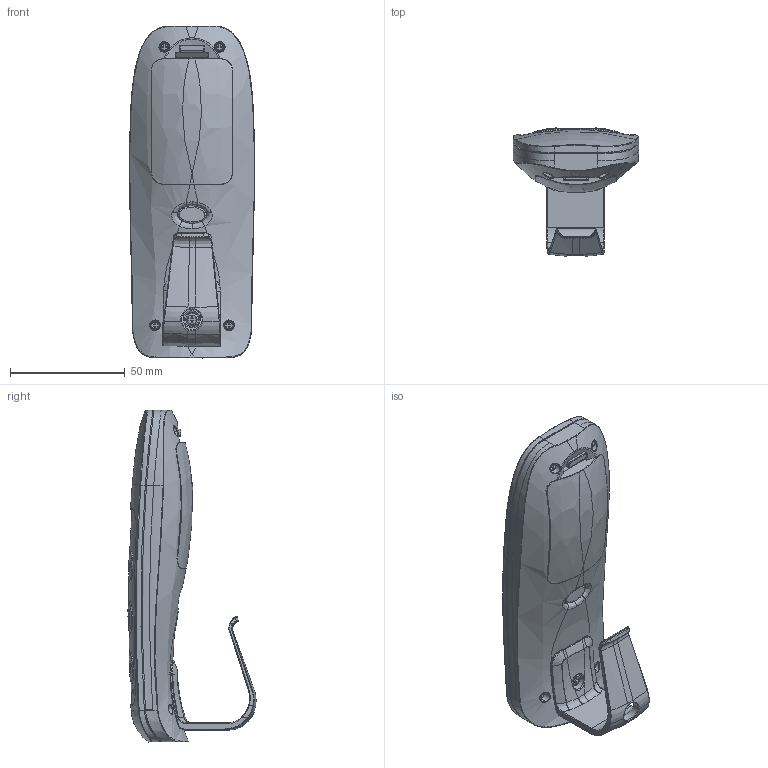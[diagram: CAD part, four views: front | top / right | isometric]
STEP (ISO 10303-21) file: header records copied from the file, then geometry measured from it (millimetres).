
FILE_DESCRIPTION((''),'2;1');
FILE_NAME('TXZ','2015-10-14T',('lily'),(''),'PRO/ENGINEER BY PARAMETRIC TECHNOLOGY CORPORATION, 2014200','PRO/ENGINEER BY PARAMETRIC TECHNOLOGY CORPORATION, 2014200','');
FILE_SCHEMA(('CONFIG_CONTROL_DESIGN'));
Products named in the file (1): TXZ
Bounding box: 54.38 x 55.7 x 144.4 mm (x, y, z)
Volume: 3649.4 mm3; surface area: 71806.8 mm2
Topology: 8 solids, 12 shells, 1590 faces, 4287 edges, 2767 vertices
Faces by surface type: plane 646, cylinder 379, bspline 303, torus 119, extrusion 95, cone 42, sphere 6
Entity records: 80005 total; most frequent: CARTESIAN_POINT 44016, ORIENTED_EDGE 8447, DIRECTION 5736, EDGE_CURVE 4281, VERTEX_POINT 2767, AXIS2_PLACEMENT_3D 1941, B_SPLINE_CURVE_WITH_KNOTS 1869, VECTOR 1854
